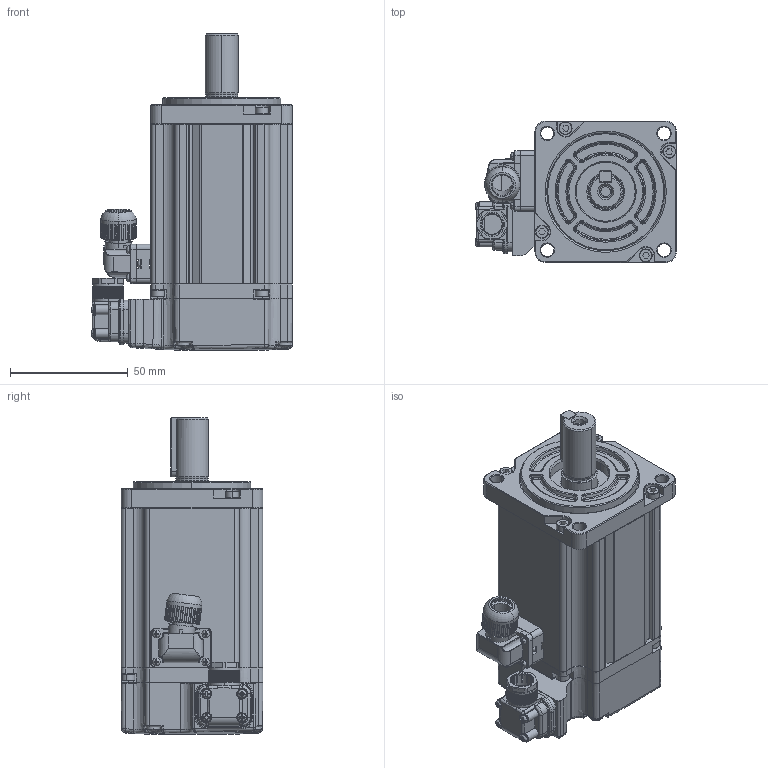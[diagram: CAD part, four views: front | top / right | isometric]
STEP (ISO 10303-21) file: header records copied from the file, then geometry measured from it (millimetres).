
FILE_DESCRIPTION (( 'STEP AP214' ), '1' );
FILE_NAME ('4611170000690.STEP', '2019-01-18T01:38:38', ( '11' ), ( '' ), 'SwSTEP 2.0', 'SolidWorks 2015', '' );
FILE_SCHEMA (( 'AUTOMOTIVE_DESIGN' ));
Length unit declared in the file: millimetre
Products named in the file (1): 4611170000690
Bounding box: 85.28 x 60.1 x 134 mm (x, y, z)
Surface area: 45911.3 mm2 (no closed solid volume)
Topology: 0 solids, 48 shells, 1309 faces, 4769 edges, 3332 vertices
Faces by surface type: plane 528, cone 279, cylinder 264, bspline 170, torus 60, sphere 8
Entity records: 83553 total; most frequent: CARTESIAN_POINT 33464, ORIENTED_EDGE 7511, DIRECTION 6153, EDGE_CURVE 4751, VERTEX_POINT 3332, AXIS2_PLACEMENT_3D 2238, B_SPLINE_CURVE_WITH_KNOTS 1875, LINE 1677
